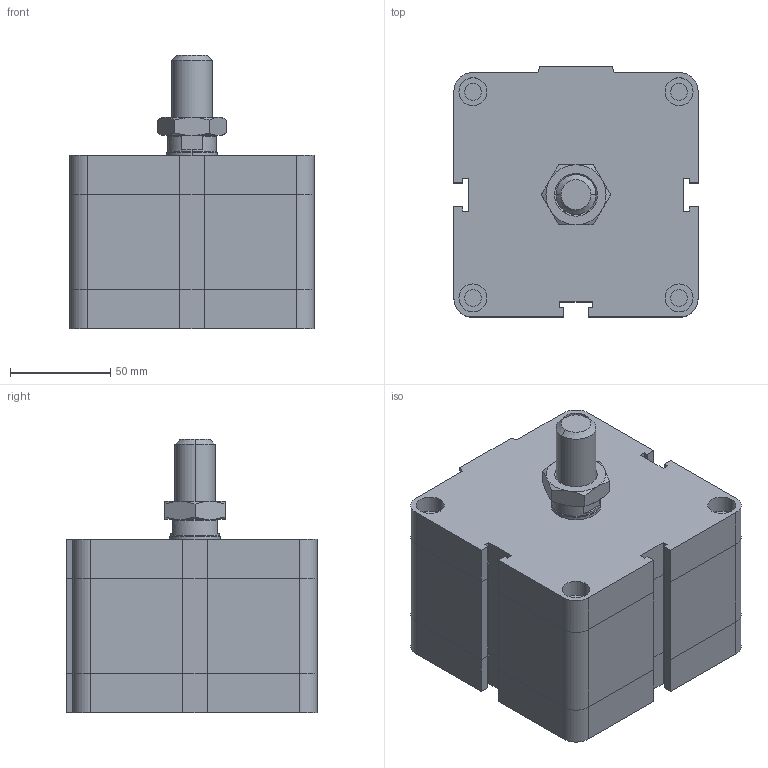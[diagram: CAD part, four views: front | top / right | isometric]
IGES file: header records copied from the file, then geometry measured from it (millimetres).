
Global section: file name: No Iges File Name specified; native system: Autodesk Inventor 2009; preprocessor: AutoDesk Inventor Iges Exporter R2009; author: rivolro1; date: 20081219.162825; units: millimetre
Bounding box: 122 x 125 x 136.5 mm (x, y, z)
Volume: 1266613.2 mm3; surface area: 96307.2 mm2
Topology: 3 solids, 3 shells, 216 faces, 472 edges, 282 vertices
Faces by surface type: plane 121, bspline 37, cylinder 20, cone 20, revolution 18
